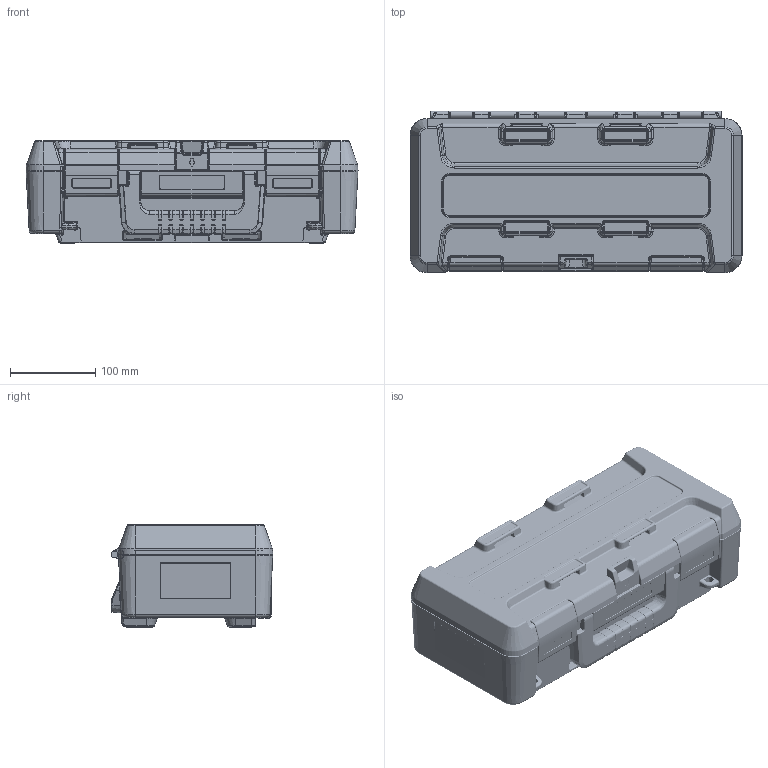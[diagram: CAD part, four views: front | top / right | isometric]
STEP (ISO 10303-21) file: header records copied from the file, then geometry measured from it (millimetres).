
FILE_DESCRIPTION(/* description */ (''),/* implementation_level */ '2;1');
FILE_NAME(/* name */ 'Flexicase_4212.stp',/* time_stamp */ '2017-12-08T10:27:50+01:00',/* author */ (''),/* organization */ (''),/* preprocessor_version */ 'ST-DEVELOPER v15',/* originating_system */ 'SIEMENS PLM Software NX 9.0',/* authorisation */ '');
FILE_SCHEMA (('AUTOMOTIVE_DESIGN { 1 0 10303 214 3 1 1 1 }'));
Products named in the file (1): sn3F409F20moi6
Bounding box: 390 x 190 x 120.5 mm (x, y, z)
Volume: 1069472.3 mm3; surface area: 624019.6 mm2
Topology: 6 solids, 9 shells, 6222 faces, 14922 edges, 8582 vertices
Faces by surface type: cylinder 2338, bspline 1609, plane 1384, torus 490, cone 292, sphere 109
Full cylindrical faces by diameter (mm): 8 x2
Entity records: 256261 total; most frequent: CARTESIAN_POINT 99904, ORIENTED_EDGE 29542, DIRECTION 28802, EDGE_CURVE 14771, AXIS2_PLACEMENT_3D 11324, VERTEX_POINT 8585, EDGE_LOOP 6284, ADVANCED_FACE 6221
